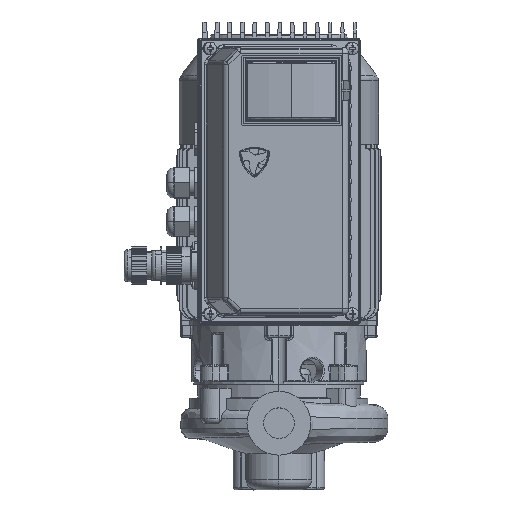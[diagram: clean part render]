
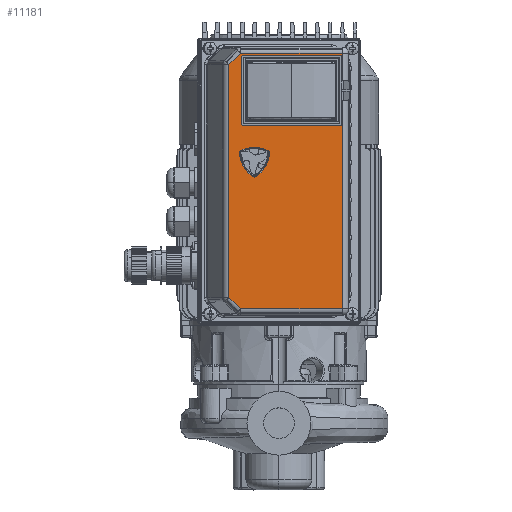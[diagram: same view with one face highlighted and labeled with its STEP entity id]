
A CAD part, top view. The second image highlights one B-rep face of the part: STEP entity #11181.
In plain terms, the highlighted planar face has unit normal (0, 0, 1) as drawn and (0, 0.276, -0.961) by its records, which use the part's own axes.
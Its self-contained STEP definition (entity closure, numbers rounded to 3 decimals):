
#11181=ADVANCED_FACE('',(#21962,#21963),#21964,.F.);
#21962=FACE_BOUND('',#40348,.T.);
#21963=FACE_OUTER_BOUND('',#40349,.T.);
#21964=PLANE('',#40350);
#40348=EDGE_LOOP('',(#66000,#66001,#66002,#66003));
#40349=EDGE_LOOP('',(#66004,#66005,#66006,#66007,#66008,#66009));
#40350=AXIS2_PLACEMENT_3D('',#66010,#66011,#66012);
#66000=ORIENTED_EDGE('',*,*,#94416,.T.);
#66001=ORIENTED_EDGE('',*,*,#94419,.T.);
#66002=ORIENTED_EDGE('',*,*,#94409,.T.);
#66003=ORIENTED_EDGE('',*,*,#94413,.T.);
#66004=ORIENTED_EDGE('',*,*,#93505,.F.);
#66005=ORIENTED_EDGE('',*,*,#95257,.F.);
#66006=ORIENTED_EDGE('',*,*,#95263,.F.);
#66007=ORIENTED_EDGE('',*,*,#93982,.T.);
#66008=ORIENTED_EDGE('',*,*,#94795,.T.);
#66009=ORIENTED_EDGE('',*,*,#95261,.T.);
#66010=CARTESIAN_POINT('',(0.,13.785,32.694));
#66011=DIRECTION('',(0.0,-0.276,0.961));
#66012=DIRECTION('',(-0.0,0.961,0.276));
#93505=EDGE_CURVE('',#118345,#118347,#118348,.T.);
#93982=EDGE_CURVE('',#119162,#119160,#119163,.T.);
#94409=EDGE_CURVE('',#119883,#119884,#119885,.T.);
#94413=EDGE_CURVE('',#119884,#119889,#119890,.T.);
#94416=EDGE_CURVE('',#119889,#119893,#119894,.T.);
#94419=EDGE_CURVE('',#119893,#119883,#119897,.T.);
#94795=EDGE_CURVE('',#119160,#120326,#120328,.T.);
#95257=EDGE_CURVE('',#120848,#118345,#120850,.T.);
#95261=EDGE_CURVE('',#120326,#118347,#120854,.T.);
#95263=EDGE_CURVE('',#119162,#120848,#120856,.T.);
#118345=VERTEX_POINT('',#136015);
#118347=VERTEX_POINT('',#136017);
#118348=LINE('',#136018,#136019);
#119160=VERTEX_POINT('',#136958);
#119162=VERTEX_POINT('',#136960);
#119163=LINE('',#136961,#136962);
#119883=VERTEX_POINT('',#137821);
#119884=VERTEX_POINT('',#137822);
#119885=LINE('',#137823,#137824);
#119889=VERTEX_POINT('',#137830);
#119890=LINE('',#137831,#137832);
#119893=VERTEX_POINT('',#137836);
#119894=LINE('',#137837,#137838);
#119897=LINE('',#137842,#137843);
#120326=VERTEX_POINT('',#138323);
#120328=LINE('',#138325,#138326);
#120848=VERTEX_POINT('',#138944);
#120850=LINE('',#138946,#138947);
#120854=LINE('',#138951,#138952);
#120856=LINE('',#138954,#138955);
#136015=CARTESIAN_POINT('',(-102.0,48.307,42.593));
#136017=CARTESIAN_POINT('',(-102.0,-29.808,20.194));
#136018=CARTESIAN_POINT('',(-102.0,-21.808,22.488));
#136019=VECTOR('',#153974,1.);
#136958=CARTESIAN_POINT('',(102.0,48.307,42.593));
#136960=CARTESIAN_POINT('',(92.929,57.378,45.194));
#136961=CARTESIAN_POINT('',(81.022,69.285,48.608));
#136962=VECTOR('',#154864,1.);
#137821=CARTESIAN_POINT('',(-50.,42.286,40.866));
#137822=CARTESIAN_POINT('',(-95.,42.286,40.866));
#137823=CARTESIAN_POINT('',(-36.25,42.286,40.866));
#137824=VECTOR('',#155652,1.);
#137830=CARTESIAN_POINT('',(-95.,-24.041,21.847));
#137831=CARTESIAN_POINT('',(-95.,11.454,32.025));
#137832=VECTOR('',#155655,1.);
#137836=CARTESIAN_POINT('',(-50.,-24.041,21.847));
#137837=CARTESIAN_POINT('',(-36.25,-24.041,21.847));
#137838=VECTOR('',#155657,1.);
#137842=CARTESIAN_POINT('',(-50.,11.454,32.025));
#137843=VECTOR('',#155659,1.);
#138323=CARTESIAN_POINT('',(102.0,-29.808,20.194));
#138325=CARTESIAN_POINT('',(102.0,-21.808,22.488));
#138326=VECTOR('',#156245,1.0);
#138944=CARTESIAN_POINT('',(-92.929,57.378,45.194));
#138946=CARTESIAN_POINT('',(-81.022,69.285,48.608));
#138947=VECTOR('',#156920,1.);
#138951=CARTESIAN_POINT('',(0.,-29.808,20.194));
#138952=VECTOR('',#156924,1.0);
#138954=CARTESIAN_POINT('',(0.,57.378,45.194));
#138955=VECTOR('',#156925,1.0);
#153974=DIRECTION('',(0.,-0.961,-0.276));
#154864=DIRECTION('',(0.693,-0.693,-0.199));
#155652=DIRECTION('',(-1.0,0.,0.));
#155655=DIRECTION('',(-0.0,-0.961,-0.276));
#155657=DIRECTION('',(1.0,0.,0.));
#155659=DIRECTION('',(-0.0,0.961,0.276));
#156245=DIRECTION('',(0.,-0.961,-0.276));
#156920=DIRECTION('',(-0.693,-0.693,-0.199));
#156924=DIRECTION('',(-1.0,0.0,0.0));
#156925=DIRECTION('',(-1.0,0.0,0.0));
